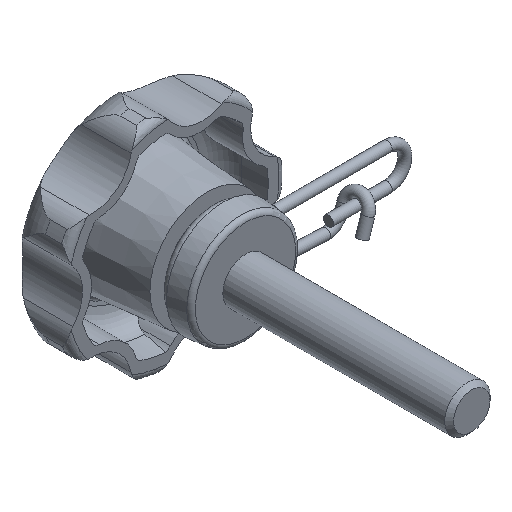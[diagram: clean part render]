
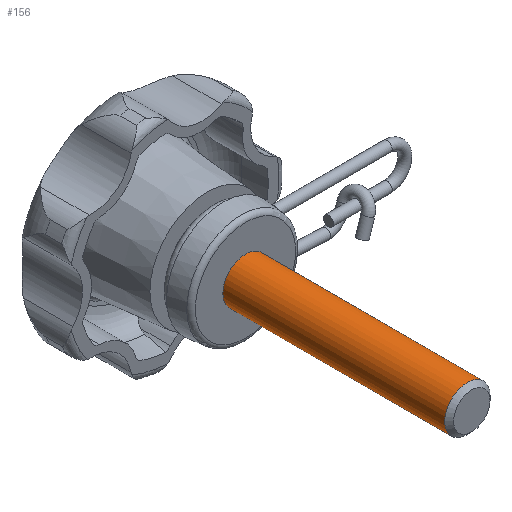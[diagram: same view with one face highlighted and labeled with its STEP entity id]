
A CAD part, isometric view. The second image highlights one B-rep face of the part: STEP entity #156.
In plain terms, the highlighted cylindrical face has radius 2.5 mm (diameter 5 mm), a full revolution.
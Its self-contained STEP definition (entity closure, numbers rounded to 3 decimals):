
#156 = ADVANCED_FACE( '', ( #362, #363 ), #364, .T. );
#362 = FACE_OUTER_BOUND( '', #591, .T. );
#363 = FACE_OUTER_BOUND( '', #592, .T. );
#364 = CYLINDRICAL_SURFACE( '', #593, 2.5 );
#591 = EDGE_LOOP( '', ( #1295 ) );
#592 = EDGE_LOOP( '', ( #1296 ) );
#593 = AXIS2_PLACEMENT_3D( '', #1297, #1298, #1299 );
#1295 = ORIENTED_EDGE( '', *, *, #1637, .F. );
#1296 = ORIENTED_EDGE( '', *, *, #1633, .T. );
#1297 = CARTESIAN_POINT( '', ( 0., -25., 0. ) );
#1298 = DIRECTION( '', ( 0., 1., 0. ) );
#1299 = DIRECTION( '', ( 0., 0., -1. ) );
#1633 = EDGE_CURVE( '', #2034, #2034, #2035, .T. );
#1637 = EDGE_CURVE( '', #2039, #2039, #2040, .T. );
#2034 = VERTEX_POINT( '', #3284 );
#2035 = CIRCLE( '', #3285, 2.5 );
#2039 = VERTEX_POINT( '', #3292 );
#2040 = CIRCLE( '', #3293, 2.5 );
#3284 = CARTESIAN_POINT( '', ( 0., 0., -2.5 ) );
#3285 = AXIS2_PLACEMENT_3D( '', #3673, #3674, #3675 );
#3292 = CARTESIAN_POINT( '', ( 0., -24.51, -2.5 ) );
#3293 = AXIS2_PLACEMENT_3D( '', #3679, #3680, #3681 );
#3673 = CARTESIAN_POINT( '', ( 0., 0., 0. ) );
#3674 = DIRECTION( '', ( 0., -1., 0. ) );
#3675 = DIRECTION( '', ( 0., 0., -1. ) );
#3679 = CARTESIAN_POINT( '', ( 0., -24.51, 0. ) );
#3680 = DIRECTION( '', ( 0., -1., 0. ) );
#3681 = DIRECTION( '', ( 0., 0., -1. ) );
